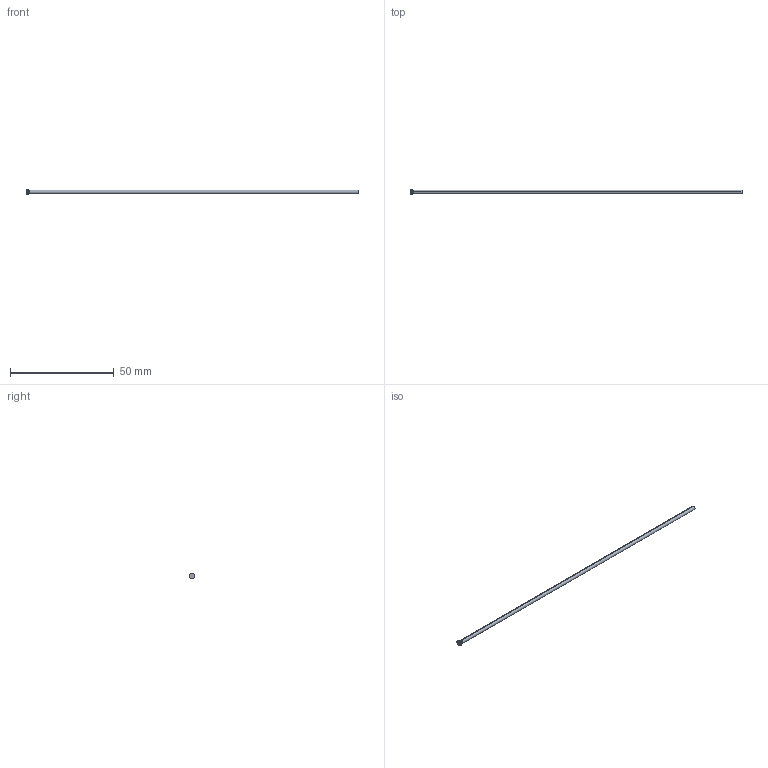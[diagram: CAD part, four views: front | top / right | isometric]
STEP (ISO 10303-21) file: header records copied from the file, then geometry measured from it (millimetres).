
FILE_DESCRIPTION (( 'STEP AP214' ), '1' );
FILE_NAME ('D-1,8x160.STEP', '2020-06-08T09:41:46', ( 'August' ), ( '' ), 'SwSTEP 2.0', 'SolidWorks 2018', '' );
FILE_SCHEMA (( 'AUTOMOTIVE_DESIGN' ));
Length unit declared in the file: millimetre
Products named in the file (1): D-1,8x160
Bounding box: 160 x 2.8 x 2.8 mm (x, y, z)
Volume: 410.5 mm3; surface area: 917.4 mm2
Topology: 1 solids, 1 shells, 10 faces, 18 edges, 10 vertices
Faces by surface type: cylinder 4, torus 2, cone 2, plane 2
Entity records: 280 total; most frequent: DIRECTION 52, CARTESIAN_POINT 39, ORIENTED_EDGE 36, AXIS2_PLACEMENT_3D 23, EDGE_CURVE 18, CIRCLE 12, EDGE_LOOP 10, VERTEX_POINT 10
